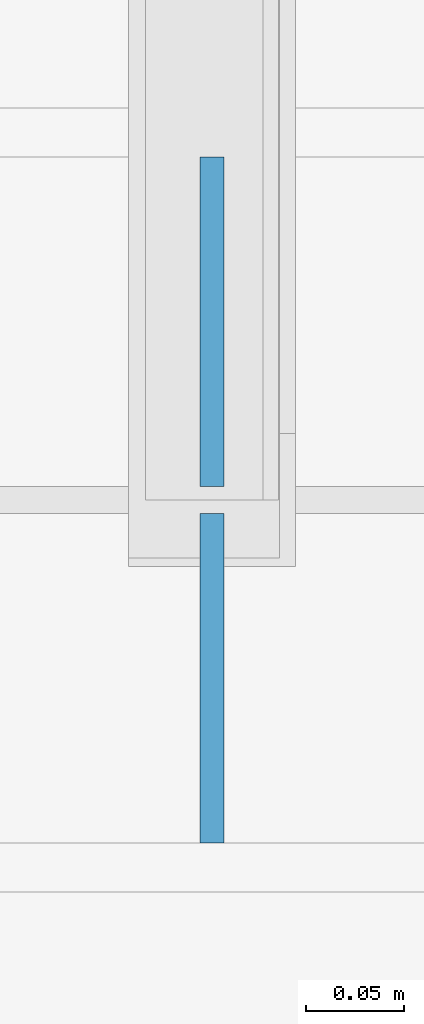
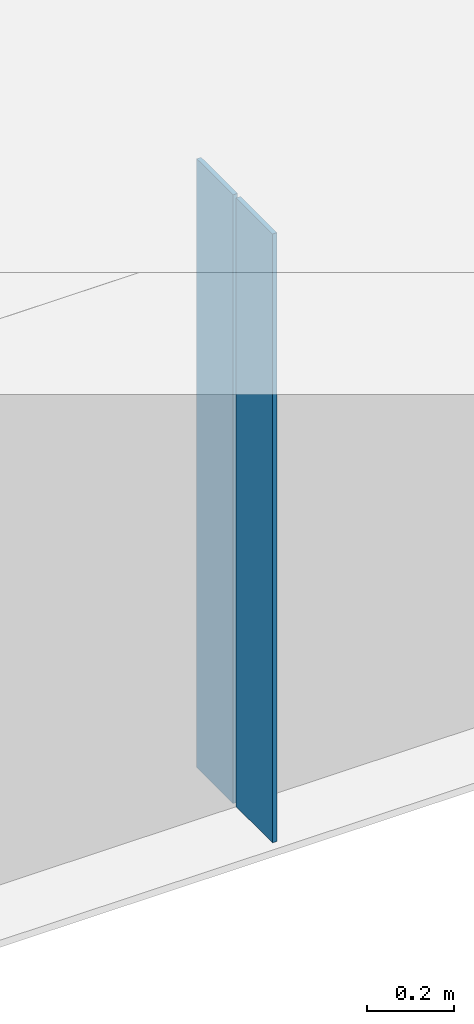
# One storey, part 5 of 17: 2 plates.
"""IFC4 building model written with IfcOpenShell, lengths in metres."""

from ifc_helpers import new_model, si_unit, frame, origin, origin_with_axes, origin_2d_with_axis, place, context, subcontext, project, spatial, rectangle, extrude, element, save


model = new_model("IFC4")

# Units and contexts
model_context = context("Model", 3, precision=1e-05, world=origin())
body_context = subcontext(model_context, "Body", "Model", "MODEL_VIEW")
ifc_project = project(units=[si_unit("LENGTHUNIT", "METRE"), si_unit("AREAUNIT", "SQUARE_METRE"), si_unit("VOLUMEUNIT", "CUBIC_METRE"), si_unit("PLANEANGLEUNIT", "RADIAN")], contexts=[model_context])

# Site, building, storey
site_placement = place(None, origin_with_axes())
site = spatial("IfcSite", under=ifc_project, at=site_placement, Name="Default Site")
building_placement = place(site_placement, origin_with_axes())
building = spatial("IfcBuilding", under=site, at=building_placement, Name="Bridge Structure")
storey_placement = place(building_placement, origin_with_axes())
storey = spatial("IfcBuildingStorey", under=building, at=storey_placement, Name="Superstructure")

# Plates
for number, where, z_axis, x_axis, name in (
    (1, (15.0, -5.409, -0.857), (0.0, 0.0, 1.0), (1.0, 0.0, 0.0), "Intermediate Stiffener 1"),
    (2, (15.0, -5.591, -0.857), (0.0, 0.0, 1.0), (1.0, 0.0, 0.0), "Intermediate Stiffener 1"),
):
    element("IfcPlate", number, at=place(storey_placement, frame(where, z_axis=z_axis, x_axis=x_axis)), inside=storey, Name=name, context=body_context, shape_type="SweptSolid", body=[
        extrude(rectangle(XDim=0.012, YDim=0.168, at=origin_2d_with_axis()), origin_with_axes(), (0.0, 0.0, 1.0), 1.714),
    ])

save(model, "model.ifc")
